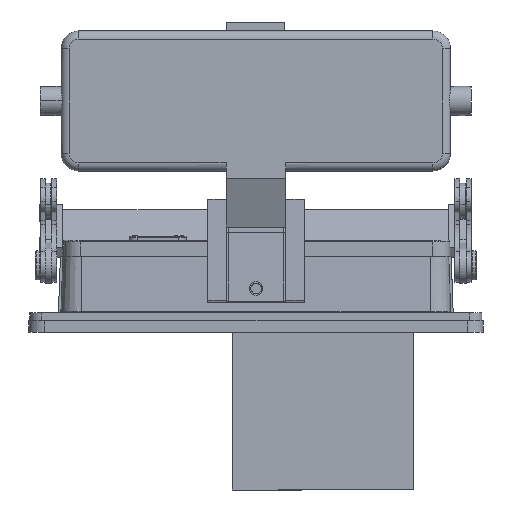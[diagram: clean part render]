
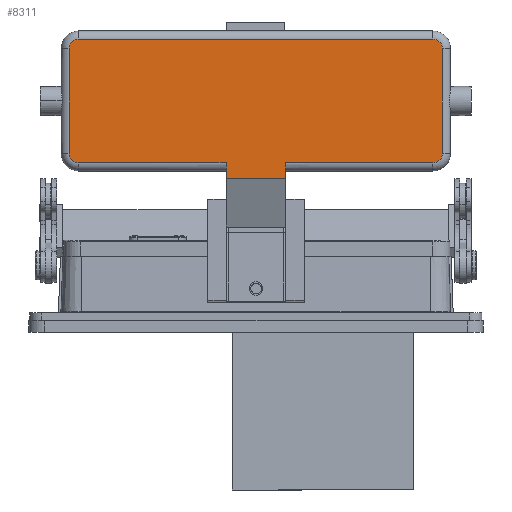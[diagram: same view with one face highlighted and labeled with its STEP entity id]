
A CAD part, front view. The second image highlights one B-rep face of the part: STEP entity #8311.
In plain terms, the highlighted planar face has unit normal (0, -1, 0).
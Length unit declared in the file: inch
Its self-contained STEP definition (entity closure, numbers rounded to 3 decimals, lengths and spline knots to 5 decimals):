
#1875 = DIRECTION ( 'NONE',  ( 0., 0., 1. ) ) ;
#1876 = VECTOR ( 'NONE', #1875, 39.37008 ) ;
#1877 = CARTESIAN_POINT ( 'NONE',  ( -0.36338, -1.8147, 1.53314 ) ) ;
#1878 = DIRECTION ( 'NONE',  ( 1., 0., 0. ) ) ;
#1879 = DIRECTION ( 'NONE',  ( 0., -1., 0. ) ) ;
#1880 = CARTESIAN_POINT ( 'NONE',  ( -2.162, -1.8147, 2.11314 ) ) ;
#1881 = AXIS2_PLACEMENT_3D ( 'NONE', #1880, #1879, #1878 ) ;
#1882 = CIRCLE ( 'NONE', #1881, 0.11462 ) ;
#1883 = LINE ( 'NONE', #1877, #1876 ) ;
#1885 = CARTESIAN_POINT ( 'NONE',  ( -2.27662, -1.8147, 2.11314 ) ) ;
#1888 = DIRECTION ( 'NONE',  ( 1., 0., 0. ) ) ;
#1889 = DIRECTION ( 'NONE',  ( 0., -1., 0. ) ) ;
#1890 = CARTESIAN_POINT ( 'NONE',  ( -2.162, -1.8147, 3.39314 ) ) ;
#1891 = AXIS2_PLACEMENT_3D ( 'NONE', #1890, #1889, #1888 ) ;
#1892 = CIRCLE ( 'NONE', #1891, 0.11462 ) ;
#1919 = DIRECTION ( 'NONE',  ( 0., 0., -1. ) ) ;
#1920 = VECTOR ( 'NONE', #1919, 39.37008 ) ;
#1921 = CARTESIAN_POINT ( 'NONE',  ( -2.27662, -1.8147, 2.39964 ) ) ;
#1922 = LINE ( 'NONE', #1921, #1920 ) ;
#1966 = CARTESIAN_POINT ( 'NONE',  ( -2.27662, -1.8147, 3.39314 ) ) ;
#2340 = CARTESIAN_POINT ( 'NONE',  ( -2.162, -1.8147, 3.50775 ) ) ;
#2341 = DIRECTION ( 'NONE',  ( -1., 0., 0. ) ) ;
#2342 = VECTOR ( 'NONE', #2341, 39.37008 ) ;
#2343 = CARTESIAN_POINT ( 'NONE',  ( 4.13914, -1.8147, 3.50775 ) ) ;
#2344 = LINE ( 'NONE', #2343, #2342 ) ;
#2435 = CARTESIAN_POINT ( 'NONE',  ( -0.36338, -1.8147, 1.80883 ) ) ;
#2436 = CARTESIAN_POINT ( 'NONE',  ( 0.36338, -1.8147, 1.80883 ) ) ;
#2438 = DIRECTION ( 'NONE',  ( -1., 0., 0. ) ) ;
#2439 = VECTOR ( 'NONE', #2438, 39.37008 ) ;
#2440 = CARTESIAN_POINT ( 'NONE',  ( 4.13914, -1.8147, 1.80883 ) ) ;
#2441 = LINE ( 'NONE', #2440, #2439 ) ;
#2526 = CARTESIAN_POINT ( 'NONE',  ( 2.162, -1.8147, 3.50775 ) ) ;
#2532 = DIRECTION ( 'NONE',  ( 1., 0., 0. ) ) ;
#2533 = DIRECTION ( 'NONE',  ( 0., -1., 0. ) ) ;
#2534 = AXIS2_PLACEMENT_3D ( 'NONE', #2549, #2533, #2532 ) ;
#2535 = CIRCLE ( 'NONE', #2534, 0.11462 ) ;
#2544 = DIRECTION ( 'NONE',  ( 1., 0., 0. ) ) ;
#2545 = DIRECTION ( 'NONE',  ( 0., -1., 0. ) ) ;
#2546 = CARTESIAN_POINT ( 'NONE',  ( 2.162, -1.8147, 2.11314 ) ) ;
#2547 = AXIS2_PLACEMENT_3D ( 'NONE', #2546, #2545, #2544 ) ;
#2548 = CIRCLE ( 'NONE', #2547, 0.11462 ) ;
#2549 = CARTESIAN_POINT ( 'NONE',  ( 2.162, -1.8147, 3.39314 ) ) ;
#2550 = DIRECTION ( 'NONE',  ( 0., 0., -1. ) ) ;
#2551 = VECTOR ( 'NONE', #2550, 39.37008 ) ;
#2552 = CARTESIAN_POINT ( 'NONE',  ( 0.36338, -1.8147, 1.90514 ) ) ;
#2553 = LINE ( 'NONE', #2552, #2551 ) ;
#3026 = FACE_OUTER_BOUND ( 'NONE', #8315, .T. ) ;
#3484 = DIRECTION ( 'NONE',  ( 1., 0., 0. ) ) ;
#3485 = DIRECTION ( 'NONE',  ( 0., -1., 0. ) ) ;
#3487 = CARTESIAN_POINT ( 'NONE',  ( 4.13914, -1.8147, 2.39964 ) ) ;
#3489 = AXIS2_PLACEMENT_3D ( 'NONE', #3487, #3485, #3484 ) ;
#3516 = PLANE ( 'NONE',  #3489 ) ;
#7911 = EDGE_CURVE ( 'NONE', #8011, #7913, #1892, .T. ) ;
#7913 = VERTEX_POINT ( 'NONE', #1966 ) ;
#7915 = ORIENTED_EDGE ( 'NONE', *, *, #7917, .T. ) ;
#7917 = EDGE_CURVE ( 'NONE', #7913, #7919, #1922, .T. ) ;
#7919 = VERTEX_POINT ( 'NONE', #1885 ) ;
#7921 = ORIENTED_EDGE ( 'NONE', *, *, #7922, .T. ) ;
#7922 = EDGE_CURVE ( 'NONE', #7919, #34597, #1882, .T. ) ;
#7923 = ORIENTED_EDGE ( 'NONE', *, *, #34664, .T. ) ;
#7924 = ORIENTED_EDGE ( 'NONE', *, *, #7926, .F. ) ;
#7926 = EDGE_CURVE ( 'NONE', #8072, #34662, #1883, .T. ) ;
#7941 = ORIENTED_EDGE ( 'NONE', *, *, #8009, .T. ) ;
#8009 = EDGE_CURVE ( 'NONE', #8089, #8011, #2344, .T. ) ;
#8011 = VERTEX_POINT ( 'NONE', #2340 ) ;
#8069 = EDGE_CURVE ( 'NONE', #8071, #8072, #2441, .T. ) ;
#8071 = VERTEX_POINT ( 'NONE', #2436 ) ;
#8072 = VERTEX_POINT ( 'NONE', #2435 ) ;
#8074 = ORIENTED_EDGE ( 'NONE', *, *, #8075, .F. ) ;
#8075 = EDGE_CURVE ( 'NONE', #34606, #8071, #2553, .T. ) ;
#8077 = ORIENTED_EDGE ( 'NONE', *, *, #34591, .T. ) ;
#8079 = ORIENTED_EDGE ( 'NONE', *, *, #8081, .T. ) ;
#8081 = EDGE_CURVE ( 'NONE', #34589, #34586, #2548, .T. ) ;
#8082 = ORIENTED_EDGE ( 'NONE', *, *, #34559, .T. ) ;
#8084 = ORIENTED_EDGE ( 'NONE', *, *, #8086, .T. ) ;
#8086 = EDGE_CURVE ( 'NONE', #34557, #8089, #2535, .T. ) ;
#8089 = VERTEX_POINT ( 'NONE', #2526 ) ;
#8151 = ORIENTED_EDGE ( 'NONE', *, *, #7911, .T. ) ;
#8311 = ADVANCED_FACE ( 'NONE', ( #3026 ), #3516, .T. ) ;
#8315 = EDGE_LOOP ( 'NONE', ( #8316, #8074, #8077, #8079, #8082, #8084, #7941, #8151, #7915, #7921, #7923, #7924 ) ) ;
#8316 = ORIENTED_EDGE ( 'NONE', *, *, #8069, .F. ) ;
#12860 = CARTESIAN_POINT ( 'NONE',  ( -2.162, -1.8147, 1.99852 ) ) ;
#12944 = DIRECTION ( 'NONE',  ( 1., 0., 0. ) ) ;
#12945 = VECTOR ( 'NONE', #12944, 39.37008 ) ;
#12946 = CARTESIAN_POINT ( 'NONE',  ( 2.162, -1.8147, 1.99852 ) ) ;
#12947 = LINE ( 'NONE', #12946, #12945 ) ;
#12949 = CARTESIAN_POINT ( 'NONE',  ( 2.162, -1.8147, 1.99852 ) ) ;
#12955 = CARTESIAN_POINT ( 'NONE',  ( 2.27662, -1.8147, 2.11314 ) ) ;
#13018 = CARTESIAN_POINT ( 'NONE',  ( 0.36338, -1.8147, 1.99852 ) ) ;
#13161 = LINE ( 'NONE', #13233, #13232 ) ;
#13162 = CARTESIAN_POINT ( 'NONE',  ( -0.36338, -1.8147, 1.99852 ) ) ;
#13231 = DIRECTION ( 'NONE',  ( 1., 0., 0. ) ) ;
#13232 = VECTOR ( 'NONE', #13231, 39.37008 ) ;
#13233 = CARTESIAN_POINT ( 'NONE',  ( -0.36338, -1.8147, 1.99852 ) ) ;
#21652 = DIRECTION ( 'NONE',  ( 0., 0., 1. ) ) ;
#21653 = VECTOR ( 'NONE', #21652, 39.37008 ) ;
#21654 = CARTESIAN_POINT ( 'NONE',  ( 2.27662, -1.8147, 3.39314 ) ) ;
#21655 = LINE ( 'NONE', #21654, #21653 ) ;
#21657 = CARTESIAN_POINT ( 'NONE',  ( 2.27662, -1.8147, 3.39314 ) ) ;
#34557 = VERTEX_POINT ( 'NONE', #21657 ) ;
#34559 = EDGE_CURVE ( 'NONE', #34586, #34557, #21655, .T. ) ;
#34586 = VERTEX_POINT ( 'NONE', #12955 ) ;
#34589 = VERTEX_POINT ( 'NONE', #12949 ) ;
#34591 = EDGE_CURVE ( 'NONE', #34606, #34589, #12947, .T. ) ;
#34597 = VERTEX_POINT ( 'NONE', #12860 ) ;
#34606 = VERTEX_POINT ( 'NONE', #13018 ) ;
#34662 = VERTEX_POINT ( 'NONE', #13162 ) ;
#34664 = EDGE_CURVE ( 'NONE', #34597, #34662, #13161, .T. ) ;
